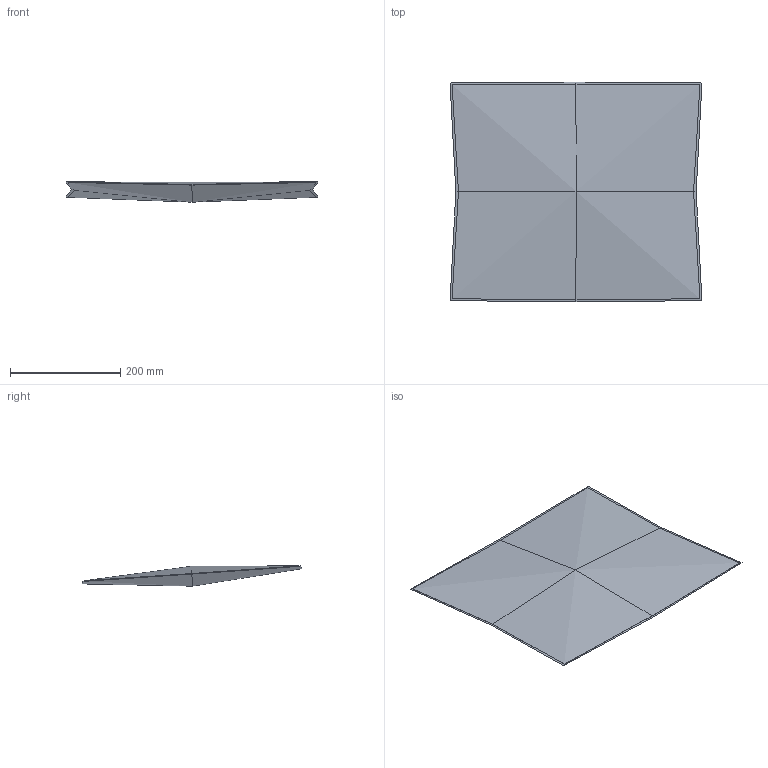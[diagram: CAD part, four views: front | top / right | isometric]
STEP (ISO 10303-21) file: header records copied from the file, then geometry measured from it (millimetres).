
FILE_DESCRIPTION(/* description */ (''),/* implementation_level */ '2;1');
FILE_NAME(/* name */ 'Flexi Lounge FL-PL',/* time_stamp */ '2021-07-13T13:04:22+02:00',/* author */ (''),/* organization */ (''),/* preprocessor_version */ 'ST-DEVELOPER v16.5',/* originating_system */ '',/* authorisation */ '');
FILE_SCHEMA (('CONFIG_CONTROL_DESIGN'));
Length unit declared in the file: millimetre
Products named in the file (1): Document
Bounding box: 456.37 x 398.54 x 36.7 mm (x, y, z)
Volume: 5613802.1 mm3; surface area: 380976.7 mm2
Topology: 1 solids, 1 shells, 24 faces, 51 edges, 26 vertices
Faces by surface type: bspline 24
Entity records: 8249 total; most frequent: CARTESIAN_POINT 7828, ORIENTED_EDGE 96, EDGE_CURVE 48, B_SPLINE_CURVE_WITH_KNOTS 48, VERTEX_POINT 26, ADVANCED_FACE 24, FACE_OUTER_BOUND 24, EDGE_LOOP 24
